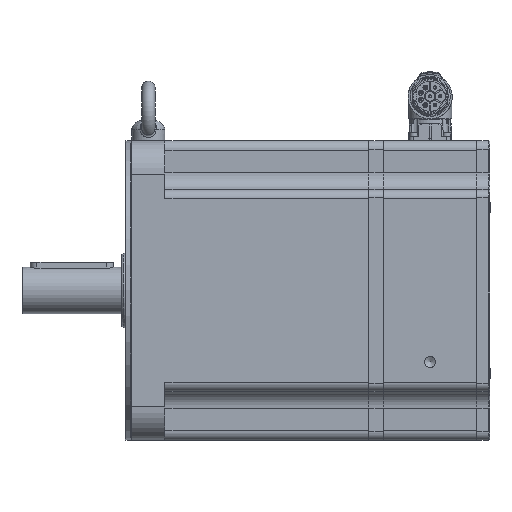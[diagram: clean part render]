
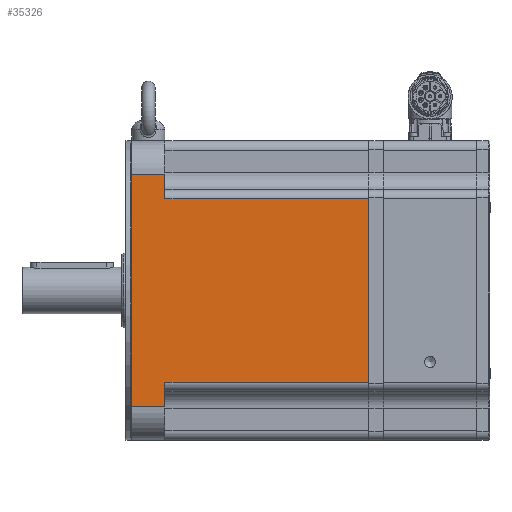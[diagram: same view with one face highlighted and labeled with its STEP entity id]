
A CAD part, left-side view. The second image highlights one B-rep face of the part: STEP entity #35326.
In plain terms, the highlighted planar face has unit normal (-1, 0, 0) as drawn and (1, 0, 0) by its records, which use the part's own axes.
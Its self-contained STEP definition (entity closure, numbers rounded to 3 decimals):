
#1043=PLANE('',#37900);
#4155=LINE('',#60043,#5774);
#4169=LINE('',#60124,#5788);
#4176=LINE('',#60169,#5795);
#4184=LINE('',#60193,#5803);
#4185=LINE('',#60194,#5804);
#4186=LINE('',#60196,#5805);
#4187=LINE('',#60198,#5806);
#4188=LINE('',#60199,#5807);
#5774=VECTOR('',#44332,1000.);
#5788=VECTOR('',#44408,1000.);
#5795=VECTOR('',#44453,1000.);
#5803=VECTOR('',#44477,1000.);
#5804=VECTOR('',#44478,1000.);
#5805=VECTOR('',#44479,1000.);
#5806=VECTOR('',#44480,1000.);
#5807=VECTOR('',#44481,1000.);
#12634=ORIENTED_EDGE('',*,*,#16227,.F.);
#12635=ORIENTED_EDGE('',*,*,#16295,.T.);
#12636=ORIENTED_EDGE('',*,*,#16263,.F.);
#12637=ORIENTED_EDGE('',*,*,#16296,.T.);
#12638=ORIENTED_EDGE('',*,*,#16297,.F.);
#12639=ORIENTED_EDGE('',*,*,#16298,.T.);
#12640=ORIENTED_EDGE('',*,*,#16283,.F.);
#12641=ORIENTED_EDGE('',*,*,#16299,.T.);
#16227=EDGE_CURVE('',#18675,#18676,#4155,.T.);
#16263=EDGE_CURVE('',#18711,#18712,#4169,.T.);
#16283=EDGE_CURVE('',#18731,#18732,#4176,.T.);
#16295=EDGE_CURVE('',#18675,#18712,#4184,.F.);
#16296=EDGE_CURVE('',#18711,#18739,#4185,.T.);
#16297=EDGE_CURVE('',#18740,#18739,#4186,.T.);
#16298=EDGE_CURVE('',#18740,#18732,#4187,.F.);
#16299=EDGE_CURVE('',#18731,#18676,#4188,.T.);
#18675=VERTEX_POINT('',#60042);
#18676=VERTEX_POINT('',#60044);
#18711=VERTEX_POINT('',#60123);
#18712=VERTEX_POINT('',#60125);
#18731=VERTEX_POINT('',#60170);
#18732=VERTEX_POINT('',#60171);
#18739=VERTEX_POINT('',#60195);
#18740=VERTEX_POINT('',#60197);
#21369=EDGE_LOOP('',(#12634,#12635,#12636,#12637,#12638,#12639,#12640,#12641));
#23422=FACE_BOUND('',#21369,.T.);
#35326=ADVANCED_FACE('',(#23422),#1043,.T.);
#37900=AXIS2_PLACEMENT_3D('',#60192,#44475,#44476);
#44332=DIRECTION('',(0.,0.,-1.));
#44408=DIRECTION('',(0.,0.,-1.));
#44453=DIRECTION('',(0.,0.,-1.));
#44475=DIRECTION('',(1.,0.,0.));
#44476=DIRECTION('',(0.,1.,0.));
#44477=DIRECTION('',(0.,1.,0.));
#44478=DIRECTION('',(0.,-1.,0.));
#44479=DIRECTION('',(0.,0.,1.));
#44480=DIRECTION('',(0.,-1.,0.));
#44481=DIRECTION('',(0.,1.,0.));
#60042=CARTESIAN_POINT('',(90.,143.8,55.2));
#60043=CARTESIAN_POINT('',(90.,143.8,-90.));
#60044=CARTESIAN_POINT('',(90.,143.8,-55.2));
#60123=CARTESIAN_POINT('',(90.,21.3,70.));
#60124=CARTESIAN_POINT('',(90.,21.3,-90.));
#60125=CARTESIAN_POINT('',(90.,21.3,55.2));
#60169=CARTESIAN_POINT('',(90.,21.3,-90.));
#60170=CARTESIAN_POINT('',(90.,21.3,-55.2));
#60171=CARTESIAN_POINT('',(90.,21.3,-70.));
#60192=CARTESIAN_POINT('',(90.,491.763,-90.));
#60193=CARTESIAN_POINT('',(90.,491.763,55.2));
#60194=CARTESIAN_POINT('',(90.,491.763,70.));
#60195=CARTESIAN_POINT('',(90.,1.3,70.));
#60196=CARTESIAN_POINT('',(90.,1.3,-90.));
#60197=CARTESIAN_POINT('',(90.,1.3,-70.));
#60198=CARTESIAN_POINT('',(90.,491.763,-70.));
#60199=CARTESIAN_POINT('',(90.,491.763,-55.2));
